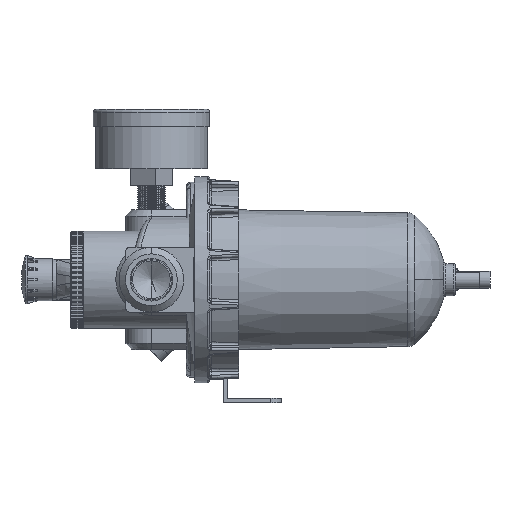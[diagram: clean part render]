
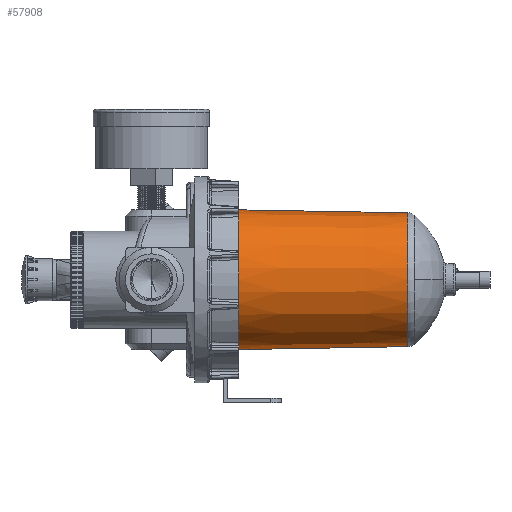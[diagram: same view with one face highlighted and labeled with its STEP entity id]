
A CAD part, left-side view. The second image highlights one B-rep face of the part: STEP entity #57908.
In plain terms, the highlighted conical face has half-angle 1 degrees and reference radius 31 mm.
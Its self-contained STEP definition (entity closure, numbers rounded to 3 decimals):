
#2423 = CARTESIAN_POINT ( 'NONE',  ( 0., 1.608, -31.028 ) ) ;
#4241 = LINE ( 'NONE', #56840, #26557 ) ;
#5941 = VERTEX_POINT ( 'NONE', #2423 ) ;
#6111 = CARTESIAN_POINT ( 'NONE',  ( 0., 80., 0. ) ) ;
#10383 = DIRECTION ( 'NONE',  ( 0., 0., -1. ) ) ;
#10947 = DIRECTION ( 'NONE',  ( 0., 0., 1. ) ) ;
#11000 = CARTESIAN_POINT ( 'NONE',  ( 0., 1.608, 0. ) ) ;
#12535 = ORIENTED_EDGE ( 'NONE', *, *, #57502, .F. ) ;
#13451 = FACE_OUTER_BOUND ( 'NONE', #34307, .T. ) ;
#15161 = ORIENTED_EDGE ( 'NONE', *, *, #23596, .F. ) ;
#16257 = VERTEX_POINT ( 'NONE', #51311 ) ;
#19701 = ORIENTED_EDGE ( 'NONE', *, *, #27979, .T. ) ;
#19734 = AXIS2_PLACEMENT_3D ( 'NONE', #59678, #35866, #31013 ) ;
#20210 = DIRECTION ( 'NONE',  ( 0., 1., -0.017 ) ) ;
#23596 = EDGE_CURVE ( 'NONE', #5941, #33364, #40768, .T. ) ;
#24029 = DIRECTION ( 'NONE',  ( 0., 1., 0.017 ) ) ;
#26557 = VECTOR ( 'NONE', #24029, 1000. ) ;
#27643 = CIRCLE ( 'NONE', #41683, 32.396 ) ;
#27979 = EDGE_CURVE ( 'NONE', #16257, #51917, #4241, .T. ) ;
#28362 = CIRCLE ( 'NONE', #39965, 31.028 ) ;
#29695 = DIRECTION ( 'NONE',  ( 0., 1., 0. ) ) ;
#30460 = DIRECTION ( 'NONE',  ( 0., 1., 0. ) ) ;
#30513 = EDGE_CURVE ( 'NONE', #5941, #16257, #28362, .T. ) ;
#31013 = DIRECTION ( 'NONE',  ( 0., 0., 1. ) ) ;
#33364 = VERTEX_POINT ( 'NONE', #44270 ) ;
#34307 = EDGE_LOOP ( 'NONE', ( #15161, #50198, #19701, #12535 ) ) ;
#35193 = CARTESIAN_POINT ( 'NONE',  ( 0., 0., -31. ) ) ;
#35866 = DIRECTION ( 'NONE',  ( 0., 1., 0. ) ) ;
#39958 = VECTOR ( 'NONE', #20210, 1000. ) ;
#39965 = AXIS2_PLACEMENT_3D ( 'NONE', #11000, #29695, #10383 ) ;
#40768 = LINE ( 'NONE', #35193, #39958 ) ;
#41629 = CARTESIAN_POINT ( 'NONE',  ( 0., 80., 32.396 ) ) ;
#41683 = AXIS2_PLACEMENT_3D ( 'NONE', #6111, #30460, #10947 ) ;
#44270 = CARTESIAN_POINT ( 'NONE',  ( 0., 80., -32.396 ) ) ;
#47052 = CONICAL_SURFACE ( 'NONE', #19734, 31., 0.017 ) ;
#50198 = ORIENTED_EDGE ( 'NONE', *, *, #30513, .T. ) ;
#51311 = CARTESIAN_POINT ( 'NONE',  ( 0., 1.608, 31.028 ) ) ;
#51917 = VERTEX_POINT ( 'NONE', #41629 ) ;
#56840 = CARTESIAN_POINT ( 'NONE',  ( 0., 0., 31. ) ) ;
#57502 = EDGE_CURVE ( 'NONE', #33364, #51917, #27643, .T. ) ;
#57908 = ADVANCED_FACE ( 'NONE', ( #13451 ), #47052, .T. ) ;
#59678 = CARTESIAN_POINT ( 'NONE',  ( 0., 0., 0. ) ) ;
